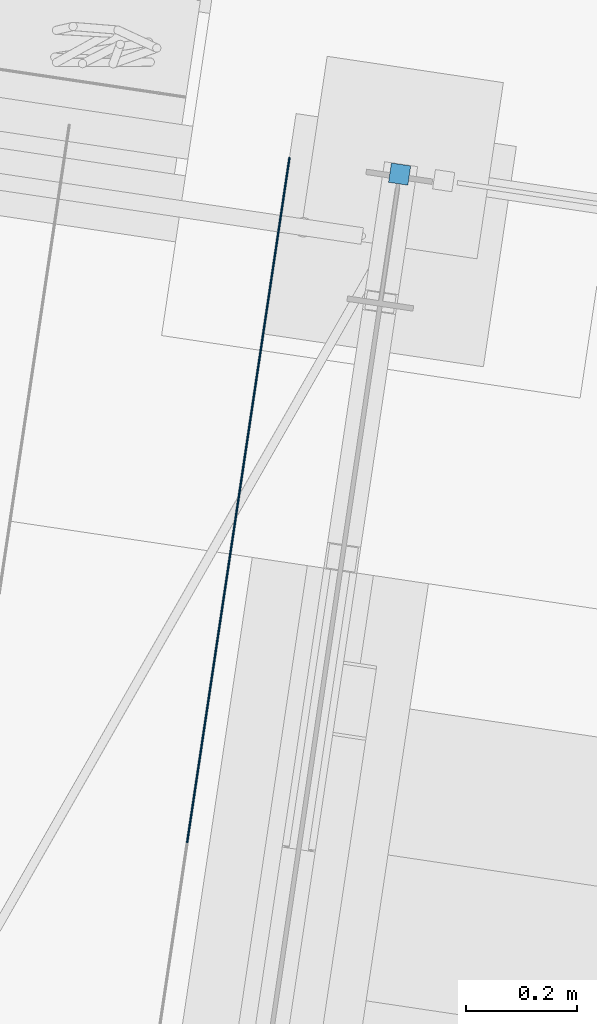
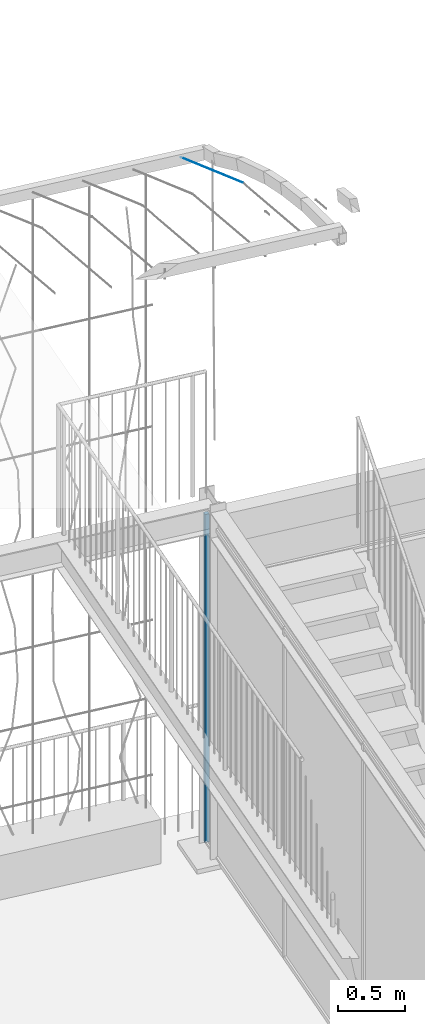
# One storey, part 47 of 142: 2 members, 1 element without a shape of its own.
"""IFC4 building model written with IfcOpenShell, lengths in metres."""

from ifc_helpers import new_model, si_unit, direction, frame, origin_with_axes, place, context, subcontext, project, spatial, rectangle, circle, extrude, material, material_profile, profile_set, profile_usage, type_object, element, aggregate, save


model = new_model("IFC4")

# Units and contexts
model_context = context("Model", 3, precision=1e-05, world=origin_with_axes(), true_north=direction((0.0, 1.0)))
body_context = subcontext(model_context, "Body", "Model", "MODEL_VIEW")
ifc_project = project(units=[si_unit("AREAUNIT", "SQUARE_METRE"), si_unit("VOLUMEUNIT", "CUBIC_METRE"), si_unit("LENGTHUNIT", "METRE")], contexts=[model_context])

# Site, building, storey
site_placement = place(None, origin_with_axes())
site = spatial("IfcSite", under=ifc_project, at=site_placement, Name="Lares · Rua das Mercês · artigo 4771")
building_placement = place(site_placement, frame((15.0, 9.7, 14.65), z_axis=(0.0, 0.0, 1.0), x_axis=(0.989015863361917, -0.147809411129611, 0.0)))
building = spatial("IfcBuilding", under=site, at=building_placement, Name="Casa Sobreposta")
storey_placement = place(building_placement, origin_with_axes())
storey = spatial("IfcBuildingStorey", under=building, at=storey_placement, Name="00 · Habitação e estacionamento", Elevation=14.65)

# Member
ifc_material_1 = material(Name="Aço pintado / Stahl lackiert", Category="steel")
ifc_material_profile_1 = material_profile(ifc_material_1, rectangle(XDim=0.035, YDim=0.035))
ifc_profile_set_1 = profile_set([ifc_material_profile_1], Name="R0.035")
ifc_profile_usage_1 = profile_usage(ifc_profile_set_1)
member_type_1 = type_object("IfcMemberType", Name="R0.035 / steel", PredefinedType="NOTDEFINED", material=ifc_profile_set_1)
member_1_placement = place(storey_placement, frame((0.0, 6.4, 0.0), z_axis=(0.0, 0.0, 1.0), x_axis=(1.0, 0.0, 0.0)))
element("IfcMember", 1, at=member_1_placement, inside=storey, type_object=member_type_1, material=ifc_profile_usage_1, Name="Fachada poente integralmente envidraçada · módulo 4 · montante", context=body_context, shape_type="SweptSolid", body=[
    extrude(rectangle(XDim=0.035, YDim=0.035), origin_with_axes(), (0.0, 0.0, 1.0), 2.968),
])

# Assembly, member
assembly_placement = place(storey_placement, origin_with_axes())
assembly = element("IfcElementAssembly", 2, at=assembly_placement, inside=storey, Name="Pérgola · prolongamento da estufa 6 m", ObjectType="PERGOLA_GREENHOUSE_EXTENSION", PredefinedType="USERDEFINED")
ifc_material_2 = material(Name="Aço galvanizado / Stahl verzinkt", Category="steel")
ifc_material_profile_2 = material_profile(ifc_material_2, circle(Radius=0.002))
ifc_profile_set_2 = profile_set([ifc_material_profile_2], Name="D0.004")
ifc_profile_usage_2 = profile_usage(ifc_profile_set_2)
member_type_2 = type_object("IfcMemberType", Name="D0.004 / galvanized", PredefinedType="NOTDEFINED", material=ifc_profile_set_2)
member_2_placement = place(assembly_placement, frame((-0.199999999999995, 5.15650506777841, 6.8157371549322), z_axis=(0.0, 0.905864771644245, -0.423567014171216), x_axis=(1.0, 0.0, 0.0)))
member_2 = element("IfcMember", 3, at=member_2_placement, type_object=member_type_2, material=ifc_profile_usage_2, Name="Pérgola · fio para trepadeiras", context=body_context, shape_type="SweptSolid", body=[
    extrude(circle(Radius=0.002), origin_with_axes(), (0.0, 0.0, 1.0), 1.3727158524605),
])
aggregate(assembly, [member_2])

save(model, "model.ifc")
